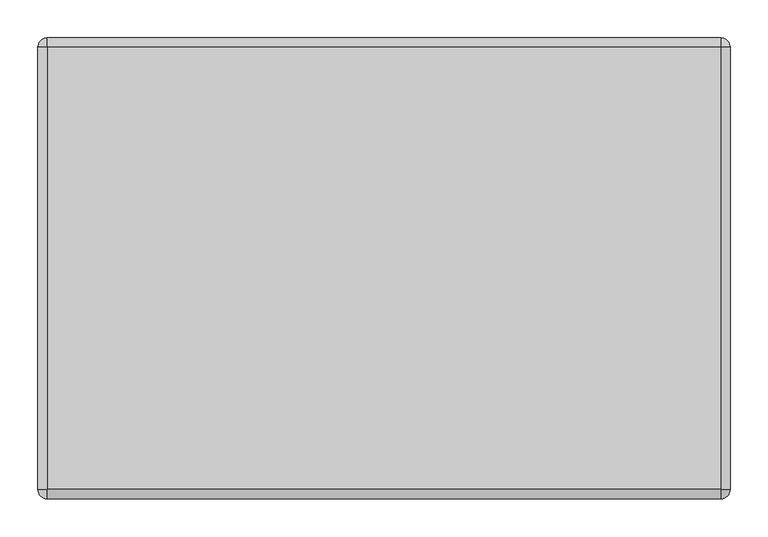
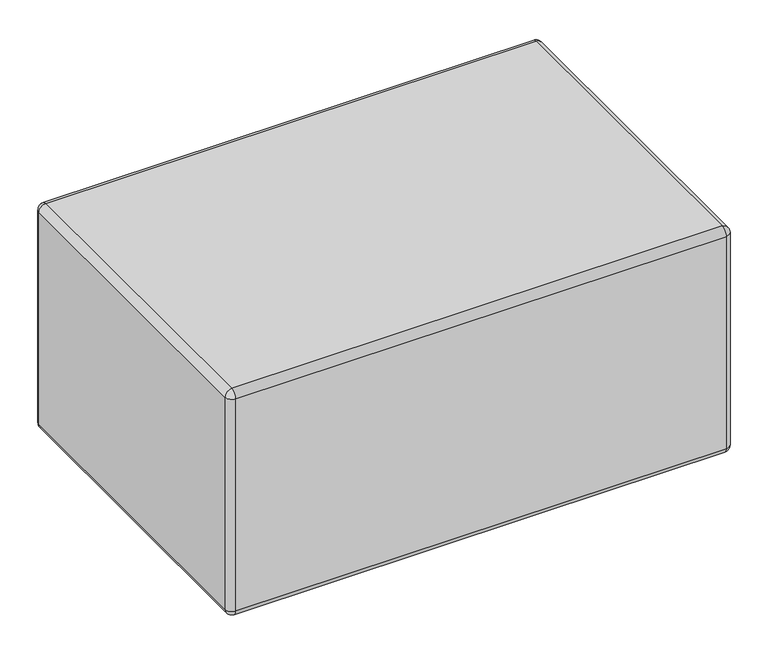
"""IFC4 building model written with IfcOpenShell, lengths in millimetres: furniture geometry, KFI Studios - Conversa : 24”x36” Seat."""

from ifc_helpers import new_model, si_unit, point, frame, origin, place, context, project, spatial, polyline, circle_curve, ellipse_curve, trimmed, source, transform, mapped, element, save
from ifc_brep_helpers import plane_surface, cylinder_surface, revolved_surface, advanced_brep


def furniture_5084037b(model_context):
    return source(origin(), model_context, "Body", "AdvancedBrep", [
        advanced_brep(
        [(373.3895895, 212.725, 25.4), (365.125, 212.725, 25.4), (356.8604105, 212.725, 25.4), (373.3895895, 212.725, 14.2843611), (356.8604105, 212.725, 14.2843611), (371.7876354, 212.725, 14.2843611), (358.4623646, 212.725, 14.2843611), (371.7876354, 212.725, 12.7064551), (358.4623646, 212.725, 12.7064551), (373.3890671, 212.725, 12.7064551), (356.8609329, 212.725, 12.7064551), (382.5741215, 212.725, 3.1950529), (347.6758785, 212.725, 3.1950529), (382.5741215, 212.725, 0.0), (347.6758785, 212.725, 0.0), (365.125, 212.725, 0.0)],
        [
            (0, 1),
            (1, 2),
            (2, 0, circle_curve(frame((365.125, 212.725, 25.4), z_axis=(0.0, 0.0, 1.0), x_axis=(-1.0, 0.0, 0.0)), 8.2645895)),
            (0, 2, circle_curve(frame((365.125, 212.725, 25.4), z_axis=(0.0, 0.0, 1.0), x_axis=(-1.0, 0.0, 0.0)), 8.2645895)),
            (3, 0),
            (2, 4),
            (4, 3, circle_curve(frame((365.125, 212.725, 14.2843611), z_axis=(0.0, 0.0, 1.0), x_axis=(-1.0, 0.0, 0.0)), 8.2645895)),
            (3, 4, circle_curve(frame((365.125, 212.725, 14.2843611), z_axis=(0.0, 0.0, 1.0), x_axis=(-1.0, 0.0, 0.0)), 8.2645895)),
            (5, 3),
            (4, 6),
            (6, 5, circle_curve(frame((365.125, 212.725, 14.2843611), z_axis=(0.0, 0.0, 1.0), x_axis=(-1.0, 0.0, 0.0)), 6.6626354)),
            (5, 6, circle_curve(frame((365.125, 212.725, 14.2843611), z_axis=(0.0, 0.0, 1.0), x_axis=(-1.0, 0.0, 0.0)), 6.6626354)),
            (7, 5),
            (6, 8),
            (8, 7, circle_curve(frame((365.125, 212.725, 12.7064551), z_axis=(0.0, 0.0, 1.0), x_axis=(-1.0, 0.0, 0.0)), 6.6626354)),
            (7, 8, circle_curve(frame((365.125, 212.725, 12.7064551), z_axis=(0.0, 0.0, 1.0), x_axis=(-1.0, 0.0, 0.0)), 6.6626354)),
            (9, 7),
            (8, 10),
            (10, 9, circle_curve(frame((365.125, 212.725, 12.7064551), z_axis=(0.0, 0.0, 1.0), x_axis=(-1.0, 0.0, 0.0)), 8.2640671)),
            (9, 10, circle_curve(frame((365.125, 212.725, 12.7064551), z_axis=(0.0, 0.0, 1.0), x_axis=(-1.0, 0.0, 0.0)), 8.2640671)),
            (11, 9),
            (10, 12),
            (12, 11, circle_curve(frame((365.125, 212.725, 3.1950529), z_axis=(0.0, 0.0, 1.0), x_axis=(-1.0, 0.0, 0.0)), 17.4491215)),
            (11, 12, circle_curve(frame((365.125, 212.725, 3.1950529), z_axis=(0.0, 0.0, 1.0), x_axis=(-1.0, 0.0, 0.0)), 17.4491215)),
            (13, 11),
            (12, 14),
            (14, 13, circle_curve(frame((365.125, 212.725, 0.0), z_axis=(0.0, 0.0, 1.0), x_axis=(-1.0, 0.0, 0.0)), 17.4491215)),
            (13, 14, circle_curve(frame((365.125, 212.725, 0.0), z_axis=(0.0, 0.0, 1.0), x_axis=(-1.0, 0.0, 0.0)), 17.4491215)),
            (15, 13),
            (14, 15),
        ],
        [
            plane_surface(frame((365.125, 212.725, 25.4), z_axis=(0.0, 0.0, 1.0), x_axis=(-1.0, 0.0, 0.0))),
            cylinder_surface(frame((365.125, 212.725, 33.820929), z_axis=(0.0, 0.0, -1.0), x_axis=(-1.0, 0.0, 0.0)), 8.2645895),
            plane_surface(frame((365.125, 212.725, 14.2843611), z_axis=(0.0, 0.0, -1.0), x_axis=(-1.0, 0.0, 0.0))),
            cylinder_surface(frame((365.125, 212.725, 33.820929), z_axis=(0.0, 0.0, -1.0), x_axis=(-1.0, 0.0, 0.0)), 6.6626354),
            plane_surface(frame((365.125, 212.725, 12.7064551), z_axis=(0.0, 0.0, 1.0), x_axis=(-1.0, 0.0, 0.0))),
            revolved_surface(polyline([(356.8609329, 212.725, 12.7064551), (347.6758785, 212.725, 3.1950529)]), (365.125, 212.725, 33.820929), (0.0, 0.0, -1.0)),
            cylinder_surface(frame((365.125, 212.725, 33.820929), z_axis=(0.0, 0.0, -1.0), x_axis=(-1.0, 0.0, 0.0)), 17.4491215),
            plane_surface(frame((365.125, 212.725, 0.0), z_axis=(0.0, 0.0, -1.0), x_axis=(-1.0, 0.0, 0.0))),
        ],
        [
            (0, [[1, 2, 3]]),
            (0, [[-2, -1, 4]]),
            (1, [[5, -3, 6, 7]]),
            (1, [[-6, -4, -5, 8]]),
            (2, [[9, -7, 10, 11]]),
            (2, [[-10, -8, -9, 12]]),
            (3, [[13, -11, 14, 15]]),
            (3, [[-14, -12, -13, 16]]),
            (4, [[17, -15, 18, 19]]),
            (4, [[-18, -16, -17, 20]]),
            (5, [[21, -19, 22, 23]]),
            (5, [[-22, -20, -21, 24]]),
            (6, [[25, -23, 26, 27]]),
            (6, [[-26, -24, -25, 28]]),
            (7, [[29, -27, 30]]),
            (7, [[-30, -28, -29]]),
        ],
    ),
        advanced_brep(
        [(-356.8604105, 212.725, 25.4), (-365.125, 212.725, 25.4), (-373.3895895, 212.725, 25.4), (-356.8604105, 212.725, 14.2843611), (-373.3895895, 212.725, 14.2843611), (-358.4623646, 212.725, 14.2843611), (-371.7876354, 212.725, 14.2843611), (-358.4623646, 212.725, 12.7064551), (-371.7876354, 212.725, 12.7064551), (-356.8609329, 212.725, 12.7064551), (-373.3890671, 212.725, 12.7064551), (-347.6758785, 212.725, 3.1950529), (-382.5741215, 212.725, 3.1950529), (-347.6758785, 212.725, 0.0), (-382.5741215, 212.725, 0.0), (-365.125, 212.725, 0.0)],
        [
            (0, 1),
            (1, 2),
            (2, 0, circle_curve(frame((-365.125, 212.725, 25.4), z_axis=(0.0, 0.0, 1.0), x_axis=(-1.0, 0.0, 0.0)), 8.2645895)),
            (0, 2, circle_curve(frame((-365.125, 212.725, 25.4), z_axis=(0.0, 0.0, 1.0), x_axis=(-1.0, 0.0, 0.0)), 8.2645895)),
            (3, 0),
            (2, 4),
            (4, 3, circle_curve(frame((-365.125, 212.725, 14.2843611), z_axis=(0.0, 0.0, 1.0), x_axis=(-1.0, 0.0, 0.0)), 8.2645895)),
            (3, 4, circle_curve(frame((-365.125, 212.725, 14.2843611), z_axis=(0.0, 0.0, 1.0), x_axis=(-1.0, 0.0, 0.0)), 8.2645895)),
            (5, 3),
            (4, 6),
            (6, 5, circle_curve(frame((-365.125, 212.725, 14.2843611), z_axis=(0.0, 0.0, 1.0), x_axis=(-1.0, 0.0, 0.0)), 6.6626354)),
            (5, 6, circle_curve(frame((-365.125, 212.725, 14.2843611), z_axis=(0.0, 0.0, 1.0), x_axis=(-1.0, 0.0, 0.0)), 6.6626354)),
            (7, 5),
            (6, 8),
            (8, 7, circle_curve(frame((-365.125, 212.725, 12.7064551), z_axis=(0.0, 0.0, 1.0), x_axis=(-1.0, 0.0, 0.0)), 6.6626354)),
            (7, 8, circle_curve(frame((-365.125, 212.725, 12.7064551), z_axis=(0.0, 0.0, 1.0), x_axis=(-1.0, 0.0, 0.0)), 6.6626354)),
            (9, 7),
            (8, 10),
            (10, 9, circle_curve(frame((-365.125, 212.725, 12.7064551), z_axis=(0.0, 0.0, 1.0), x_axis=(-1.0, 0.0, 0.0)), 8.2640671)),
            (9, 10, circle_curve(frame((-365.125, 212.725, 12.7064551), z_axis=(0.0, 0.0, 1.0), x_axis=(-1.0, 0.0, 0.0)), 8.2640671)),
            (11, 9),
            (10, 12),
            (12, 11, circle_curve(frame((-365.125, 212.725, 3.1950529), z_axis=(0.0, 0.0, 1.0), x_axis=(-1.0, 0.0, 0.0)), 17.4491215)),
            (11, 12, circle_curve(frame((-365.125, 212.725, 3.1950529), z_axis=(0.0, 0.0, 1.0), x_axis=(-1.0, 0.0, 0.0)), 17.4491215)),
            (13, 11),
            (12, 14),
            (14, 13, circle_curve(frame((-365.125, 212.725, 0.0), z_axis=(0.0, 0.0, 1.0), x_axis=(-1.0, 0.0, 0.0)), 17.4491215)),
            (13, 14, circle_curve(frame((-365.125, 212.725, 0.0), z_axis=(0.0, 0.0, 1.0), x_axis=(-1.0, 0.0, 0.0)), 17.4491215)),
            (15, 13),
            (14, 15),
        ],
        [
            plane_surface(frame((-365.125, 212.725, 25.4), z_axis=(0.0, 0.0, 1.0), x_axis=(-1.0, 0.0, 0.0))),
            cylinder_surface(frame((-365.125, 212.725, 33.820929), z_axis=(0.0, 0.0, -1.0), x_axis=(-1.0, 0.0, 0.0)), 8.2645895),
            plane_surface(frame((-365.125, 212.725, 14.2843611), z_axis=(0.0, 0.0, -1.0), x_axis=(-1.0, 0.0, 0.0))),
            cylinder_surface(frame((-365.125, 212.725, 33.820929), z_axis=(0.0, 0.0, -1.0), x_axis=(-1.0, 0.0, 0.0)), 6.6626354),
            plane_surface(frame((-365.125, 212.725, 12.7064551), z_axis=(0.0, 0.0, 1.0), x_axis=(-1.0, 0.0, 0.0))),
            revolved_surface(polyline([(-373.3890671, 212.725, 12.7064551), (-382.5741215, 212.725, 3.1950529)]), (-365.125, 212.725, 33.820929), (0.0, 0.0, -1.0)),
            cylinder_surface(frame((-365.125, 212.725, 33.820929), z_axis=(0.0, 0.0, -1.0), x_axis=(-1.0, 0.0, 0.0)), 17.4491215),
            plane_surface(frame((-365.125, 212.725, 0.0), z_axis=(0.0, 0.0, -1.0), x_axis=(-1.0, 0.0, 0.0))),
        ],
        [
            (0, [[1, 2, 3]]),
            (0, [[-2, -1, 4]]),
            (1, [[5, -3, 6, 7]]),
            (1, [[-6, -4, -5, 8]]),
            (2, [[9, -7, 10, 11]]),
            (2, [[-10, -8, -9, 12]]),
            (3, [[13, -11, 14, 15]]),
            (3, [[-14, -12, -13, 16]]),
            (4, [[17, -15, 18, 19]]),
            (4, [[-18, -16, -17, 20]]),
            (5, [[21, -19, 22, 23]]),
            (5, [[-22, -20, -21, 24]]),
            (6, [[25, -23, 26, 27]]),
            (6, [[-26, -24, -25, 28]]),
            (7, [[29, -27, 30]]),
            (7, [[-30, -28, -29]]),
        ],
    ),
        advanced_brep(
        [(373.3895895, -212.725, 25.4), (356.8604105, -212.725, 25.4), (365.125, -212.725, 25.4), (373.3895895, -212.725, 14.2843611), (356.8604105, -212.725, 14.2843611), (371.7876354, -212.725, 14.2843611), (358.4623646, -212.725, 14.2843611), (371.7876354, -212.725, 12.7064551), (358.4623646, -212.725, 12.7064551), (373.3890671, -212.725, 12.7064551), (356.8609329, -212.725, 12.7064551), (382.5741215, -212.725, 3.1950529), (347.6758785, -212.725, 3.1950529), (382.5741215, -212.725, 0.0), (347.6758785, -212.725, 0.0), (365.125, -212.725, 0.0)],
        [
            (0, 1, circle_curve(frame((365.125, -212.725, 25.4), z_axis=(0.0, 0.0, 1.0), x_axis=(-1.0, 0.0, 0.0)), 8.2645895)),
            (1, 2),
            (2, 0),
            (1, 0, circle_curve(frame((365.125, -212.725, 25.4), z_axis=(0.0, 0.0, 1.0), x_axis=(-1.0, 0.0, 0.0)), 8.2645895)),
            (3, 4, circle_curve(frame((365.125, -212.725, 14.2843611), z_axis=(0.0, 0.0, 1.0), x_axis=(-1.0, 0.0, 0.0)), 8.2645895)),
            (4, 1),
            (0, 3),
            (4, 3, circle_curve(frame((365.125, -212.725, 14.2843611), z_axis=(0.0, 0.0, 1.0), x_axis=(-1.0, 0.0, 0.0)), 8.2645895)),
            (5, 6, circle_curve(frame((365.125, -212.725, 14.2843611), z_axis=(0.0, 0.0, 1.0), x_axis=(-1.0, 0.0, 0.0)), 6.6626354)),
            (6, 4),
            (3, 5),
            (6, 5, circle_curve(frame((365.125, -212.725, 14.2843611), z_axis=(0.0, 0.0, 1.0), x_axis=(-1.0, 0.0, 0.0)), 6.6626354)),
            (7, 8, circle_curve(frame((365.125, -212.725, 12.7064551), z_axis=(0.0, 0.0, 1.0), x_axis=(-1.0, 0.0, 0.0)), 6.6626354)),
            (8, 6),
            (5, 7),
            (8, 7, circle_curve(frame((365.125, -212.725, 12.7064551), z_axis=(0.0, 0.0, 1.0), x_axis=(-1.0, 0.0, 0.0)), 6.6626354)),
            (9, 10, circle_curve(frame((365.125, -212.725, 12.7064551), z_axis=(0.0, 0.0, 1.0), x_axis=(-1.0, 0.0, 0.0)), 8.2640671)),
            (10, 8),
            (7, 9),
            (10, 9, circle_curve(frame((365.125, -212.725, 12.7064551), z_axis=(0.0, 0.0, 1.0), x_axis=(-1.0, 0.0, 0.0)), 8.2640671)),
            (11, 12, circle_curve(frame((365.125, -212.725, 3.1950529), z_axis=(0.0, 0.0, 1.0), x_axis=(-1.0, 0.0, 0.0)), 17.4491215)),
            (12, 10),
            (9, 11),
            (12, 11, circle_curve(frame((365.125, -212.725, 3.1950529), z_axis=(0.0, 0.0, 1.0), x_axis=(-1.0, 0.0, 0.0)), 17.4491215)),
            (13, 14, circle_curve(frame((365.125, -212.725, 0.0), z_axis=(0.0, 0.0, 1.0), x_axis=(-1.0, 0.0, 0.0)), 17.4491215)),
            (14, 12),
            (11, 13),
            (14, 13, circle_curve(frame((365.125, -212.725, 0.0), z_axis=(0.0, 0.0, 1.0), x_axis=(-1.0, 0.0, 0.0)), 17.4491215)),
            (15, 14),
            (13, 15),
        ],
        [
            plane_surface(frame((365.125, -212.725, 25.4), z_axis=(0.0, 0.0, 1.0), x_axis=(-1.0, 0.0, 0.0))),
            cylinder_surface(frame((365.125, -212.725, 33.820929), z_axis=(0.0, 0.0, -1.0), x_axis=(-1.0, 0.0, 0.0)), 8.2645895),
            plane_surface(frame((365.125, -212.725, 14.2843611), z_axis=(0.0, 0.0, -1.0), x_axis=(-1.0, 0.0, 0.0))),
            cylinder_surface(frame((365.125, -212.725, 33.820929), z_axis=(0.0, 0.0, -1.0), x_axis=(-1.0, 0.0, 0.0)), 6.6626354),
            plane_surface(frame((365.125, -212.725, 12.7064551), z_axis=(0.0, 0.0, 1.0), x_axis=(-1.0, 0.0, 0.0))),
            revolved_surface(polyline([(356.8609329, -212.725, 12.7064551), (347.6758785, -212.725, 3.1950529)]), (365.125, -212.725, 33.820929), (0.0, 0.0, -1.0)),
            cylinder_surface(frame((365.125, -212.725, 33.820929), z_axis=(0.0, 0.0, -1.0), x_axis=(-1.0, 0.0, 0.0)), 17.4491215),
            plane_surface(frame((365.125, -212.725, 0.0), z_axis=(0.0, 0.0, -1.0), x_axis=(-1.0, 0.0, 0.0))),
        ],
        [
            (0, [[1, 2, 3]]),
            (0, [[4, -3, -2]]),
            (1, [[5, 6, -1, 7]]),
            (1, [[8, -7, -4, -6]]),
            (2, [[9, 10, -5, 11]]),
            (2, [[12, -11, -8, -10]]),
            (3, [[13, 14, -9, 15]]),
            (3, [[16, -15, -12, -14]]),
            (4, [[17, 18, -13, 19]]),
            (4, [[20, -19, -16, -18]]),
            (5, [[21, 22, -17, 23]]),
            (5, [[24, -23, -20, -22]]),
            (6, [[25, 26, -21, 27]]),
            (6, [[28, -27, -24, -26]]),
            (7, [[29, -25, 30]]),
            (7, [[-30, -28, -29]]),
        ],
    ),
        advanced_brep(
        [(-356.8604105, -212.725, 25.4), (-373.3895895, -212.725, 25.4), (-365.125, -212.725, 25.4), (-356.8604105, -212.725, 14.2843611), (-373.3895895, -212.725, 14.2843611), (-358.4623646, -212.725, 14.2843611), (-371.7876354, -212.725, 14.2843611), (-358.4623646, -212.725, 12.7064551), (-371.7876354, -212.725, 12.7064551), (-356.8609329, -212.725, 12.7064551), (-373.3890671, -212.725, 12.7064551), (-347.6758785, -212.725, 3.1950529), (-382.5741215, -212.725, 3.1950529), (-347.6758785, -212.725, 0.0), (-382.5741215, -212.725, 0.0), (-365.125, -212.725, 0.0)],
        [
            (0, 1, circle_curve(frame((-365.125, -212.725, 25.4), z_axis=(0.0, 0.0, 1.0), x_axis=(-1.0, 0.0, 0.0)), 8.2645895)),
            (1, 2),
            (2, 0),
            (1, 0, circle_curve(frame((-365.125, -212.725, 25.4), z_axis=(0.0, 0.0, 1.0), x_axis=(-1.0, 0.0, 0.0)), 8.2645895)),
            (3, 4, circle_curve(frame((-365.125, -212.725, 14.2843611), z_axis=(0.0, 0.0, 1.0), x_axis=(-1.0, 0.0, 0.0)), 8.2645895)),
            (4, 1),
            (0, 3),
            (4, 3, circle_curve(frame((-365.125, -212.725, 14.2843611), z_axis=(0.0, 0.0, 1.0), x_axis=(-1.0, 0.0, 0.0)), 8.2645895)),
            (5, 6, circle_curve(frame((-365.125, -212.725, 14.2843611), z_axis=(0.0, 0.0, 1.0), x_axis=(-1.0, 0.0, 0.0)), 6.6626354)),
            (6, 4),
            (3, 5),
            (6, 5, circle_curve(frame((-365.125, -212.725, 14.2843611), z_axis=(0.0, 0.0, 1.0), x_axis=(-1.0, 0.0, 0.0)), 6.6626354)),
            (7, 8, circle_curve(frame((-365.125, -212.725, 12.7064551), z_axis=(0.0, 0.0, 1.0), x_axis=(-1.0, 0.0, 0.0)), 6.6626354)),
            (8, 6),
            (5, 7),
            (8, 7, circle_curve(frame((-365.125, -212.725, 12.7064551), z_axis=(0.0, 0.0, 1.0), x_axis=(-1.0, 0.0, 0.0)), 6.6626354)),
            (9, 10, circle_curve(frame((-365.125, -212.725, 12.7064551), z_axis=(0.0, 0.0, 1.0), x_axis=(-1.0, 0.0, 0.0)), 8.2640671)),
            (10, 8),
            (7, 9),
            (10, 9, circle_curve(frame((-365.125, -212.725, 12.7064551), z_axis=(0.0, 0.0, 1.0), x_axis=(-1.0, 0.0, 0.0)), 8.2640671)),
            (11, 12, circle_curve(frame((-365.125, -212.725, 3.1950529), z_axis=(0.0, 0.0, 1.0), x_axis=(-1.0, 0.0, 0.0)), 17.4491215)),
            (12, 10),
            (9, 11),
            (12, 11, circle_curve(frame((-365.125, -212.725, 3.1950529), z_axis=(0.0, 0.0, 1.0), x_axis=(-1.0, 0.0, 0.0)), 17.4491215)),
            (13, 14, circle_curve(frame((-365.125, -212.725, 0.0), z_axis=(0.0, 0.0, 1.0), x_axis=(-1.0, 0.0, 0.0)), 17.4491215)),
            (14, 12),
            (11, 13),
            (14, 13, circle_curve(frame((-365.125, -212.725, 0.0), z_axis=(0.0, 0.0, 1.0), x_axis=(-1.0, 0.0, 0.0)), 17.4491215)),
            (15, 14),
            (13, 15),
        ],
        [
            plane_surface(frame((-365.125, -212.725, 25.4), z_axis=(0.0, 0.0, 1.0), x_axis=(-1.0, 0.0, 0.0))),
            cylinder_surface(frame((-365.125, -212.725, 33.820929), z_axis=(0.0, 0.0, -1.0), x_axis=(-1.0, 0.0, 0.0)), 8.2645895),
            plane_surface(frame((-365.125, -212.725, 14.2843611), z_axis=(0.0, 0.0, -1.0), x_axis=(-1.0, 0.0, 0.0))),
            cylinder_surface(frame((-365.125, -212.725, 33.820929), z_axis=(0.0, 0.0, -1.0), x_axis=(-1.0, 0.0, 0.0)), 6.6626354),
            plane_surface(frame((-365.125, -212.725, 12.7064551), z_axis=(0.0, 0.0, 1.0), x_axis=(-1.0, 0.0, 0.0))),
            revolved_surface(polyline([(-373.3890671, -212.725, 12.7064551), (-382.5741215, -212.725, 3.1950529)]), (-365.125, -212.725, 33.820929), (0.0, 0.0, -1.0)),
            cylinder_surface(frame((-365.125, -212.725, 33.820929), z_axis=(0.0, 0.0, -1.0), x_axis=(-1.0, 0.0, 0.0)), 17.4491215),
            plane_surface(frame((-365.125, -212.725, 0.0), z_axis=(0.0, 0.0, -1.0), x_axis=(-1.0, 0.0, 0.0))),
        ],
        [
            (0, [[1, 2, 3]]),
            (0, [[4, -3, -2]]),
            (1, [[5, 6, -1, 7]]),
            (1, [[8, -7, -4, -6]]),
            (2, [[9, 10, -5, 11]]),
            (2, [[12, -11, -8, -10]]),
            (3, [[13, 14, -9, 15]]),
            (3, [[16, -15, -12, -14]]),
            (4, [[17, 18, -13, 19]]),
            (4, [[20, -19, -16, -18]]),
            (5, [[21, 22, -17, 23]]),
            (5, [[24, -23, -20, -22]]),
            (6, [[25, 26, -21, 27]]),
            (6, [[28, -27, -24, -26]]),
            (7, [[29, -25, 30]]),
            (7, [[-30, -28, -29]]),
        ],
    ),
        advanced_brep(
        [(-457.2, 292.1, 444.5), (-457.2, -292.1, 444.5), (-444.5, -292.1, 457.2), (-444.5, 292.1, 457.2), (-457.2, 292.1, 38.1), (-457.2, -292.1, 38.1), (-444.5, 292.1, 25.4), (-444.5, -292.1, 25.4), (-444.5, -304.8, 444.5), (444.5, -304.8, 444.5), (444.5, -292.1, 457.2), (-444.5, -304.8, 38.1), (444.5, -304.8, 38.1), (444.5, -292.1, 25.4), (444.5, 292.1, 457.2), (444.5, 292.1, 25.4), (444.5, 304.8, 444.5), (-444.5, 304.8, 444.5), (444.5, 304.8, 38.1), (-444.5, 304.8, 38.1), (457.2, -292.1, 444.5), (457.2, 292.1, 444.5), (457.2, -292.1, 38.1), (457.2, 292.1, 38.1)],
        [
            (0, 1),
            (1, 2, circle_curve(frame((-444.5, -292.1, 444.5), z_axis=(0.0, 1.0, 0.0), x_axis=(-1.0, 0.0, 0.0)), 12.7)),
            (2, 3),
            (3, 0, circle_curve(frame((-444.5, 292.1, 444.5), z_axis=(0.0, -1.0, 0.0), x_axis=(-1.0, 0.0, 0.0)), 12.7)),
            (0, 4),
            (4, 5),
            (5, 1),
            (4, 6, circle_curve(frame((-444.5, 292.1, 38.1), z_axis=(0.0, -1.0, 0.0), x_axis=(-1.0, 0.0, 0.0)), 12.7)),
            (6, 7),
            (7, 5, circle_curve(frame((-444.5, -292.1, 38.1), z_axis=(0.0, 1.0, 0.0), x_axis=(-1.0, 0.0, 0.0)), 12.7)),
            (8, 9),
            (9, 10, circle_curve(frame((444.5, -292.1, 444.5), z_axis=(-1.0, 0.0, 0.0), x_axis=(0.0, 1.0, 0.0)), 12.7)),
            (10, 2),
            (2, 8, circle_curve(frame((-444.5, -292.1, 444.5), z_axis=(1.0, 0.0, 0.0), x_axis=(0.0, 1.0, 0.0)), 12.7)),
            (8, 11),
            (11, 12),
            (12, 9),
            (11, 7, circle_curve(frame((-444.5, -292.1, 38.1), z_axis=(1.0, 0.0, 0.0), x_axis=(0.0, 1.0, 0.0)), 12.7)),
            (7, 13),
            (13, 12, circle_curve(frame((444.5, -292.1, 38.1), z_axis=(-1.0, 0.0, 0.0), x_axis=(0.0, 1.0, 0.0)), 12.7)),
            (10, 14),
            (14, 3),
            (6, 15),
            (15, 13),
            (16, 17),
            (17, 3, circle_curve(frame((-444.5, 292.1, 444.5), z_axis=(1.0, 0.0, 0.0), x_axis=(0.0, 1.0, 0.0)), 12.7)),
            (14, 16, circle_curve(frame((444.5, 292.1, 444.5), z_axis=(-1.0, 0.0, 0.0), x_axis=(0.0, 1.0, 0.0)), 12.7)),
            (16, 18),
            (18, 19),
            (19, 17),
            (18, 15, circle_curve(frame((444.5, 292.1, 38.1), z_axis=(-1.0, 0.0, 0.0), x_axis=(0.0, 1.0, 0.0)), 12.7)),
            (6, 19, circle_curve(frame((-444.5, 292.1, 38.1), z_axis=(1.0, 0.0, 0.0), x_axis=(0.0, 1.0, 0.0)), 12.7)),
            (20, 21),
            (21, 14, circle_curve(frame((444.5, 292.1, 444.5), z_axis=(0.0, -1.0, 0.0), x_axis=(-1.0, 0.0, 0.0)), 12.7)),
            (10, 20, circle_curve(frame((444.5, -292.1, 444.5), z_axis=(0.0, 1.0, 0.0), x_axis=(-1.0, 0.0, 0.0)), 12.7)),
            (20, 22),
            (22, 23),
            (23, 21),
            (22, 13, circle_curve(frame((444.5, -292.1, 38.1), z_axis=(0.0, 1.0, 0.0), x_axis=(-1.0, 0.0, 0.0)), 12.7)),
            (15, 23, circle_curve(frame((444.5, 292.1, 38.1), z_axis=(0.0, -1.0, 0.0), x_axis=(-1.0, 0.0, 0.0)), 12.7)),
            (19, 4, circle_curve(frame((-444.5, 292.1, 38.1), z_axis=(0.0, 0.0, 1.0), x_axis=(-1.0, 0.0, 0.0)), 12.7)),
            (0, 17, circle_curve(frame((-444.5, 292.1, 444.5), z_axis=(0.0, 0.0, -1.0), x_axis=(-1.0, 0.0, 0.0)), 12.7)),
            (8, 1, circle_curve(frame((-444.5, -292.1, 444.5), z_axis=(0.0, 0.0, -1.0), x_axis=(-1.0, 0.0, 0.0)), 12.7)),
            (5, 11, circle_curve(frame((-444.5, -292.1, 38.1), z_axis=(0.0, 0.0, 1.0), x_axis=(-1.0, 0.0, 0.0)), 12.7)),
            (12, 22, circle_curve(frame((444.5, -292.1, 38.1), z_axis=(0.0, 0.0, 1.0), x_axis=(1.0, 0.0, 0.0)), 12.7)),
            (20, 9, circle_curve(frame((444.5, -292.1, 444.5), z_axis=(0.0, 0.0, -1.0), x_axis=(1.0, 0.0, 0.0)), 12.7)),
            (16, 21, circle_curve(frame((444.5, 292.1, 444.5), z_axis=(0.0, 0.0, -1.0), x_axis=(1.0, 0.0, 0.0)), 12.7)),
            (23, 18, circle_curve(frame((444.5, 292.1, 38.1), z_axis=(0.0, 0.0, 1.0), x_axis=(1.0, 0.0, 0.0)), 12.7)),
        ],
        [
            cylinder_surface(frame((-444.5, -292.1, 444.5), z_axis=(0.0, -1.0, 0.0), x_axis=(-1.0, 0.0, 0.0)), 12.7),
            plane_surface(frame((-457.2, -292.1, 444.5), z_axis=(-1.0, 0.0, 0.0), x_axis=(0.0, 1.0, 0.0))),
            cylinder_surface(frame((-444.5, -292.1, 38.1), z_axis=(0.0, -1.0, 0.0), x_axis=(-1.0, 0.0, 0.0)), 12.7),
            cylinder_surface(frame((-444.5, -292.1, 444.5), z_axis=(-1.0, 0.0, 0.0), x_axis=(0.0, 1.0, 0.0)), 12.7),
            plane_surface(frame((-444.5, -304.8, 38.1), z_axis=(0.0, -1.0, 0.0), x_axis=(1.0, 0.0, 0.0))),
            cylinder_surface(frame((-444.5, -292.1, 38.1), z_axis=(-1.0, 0.0, 0.0), x_axis=(0.0, 1.0, 0.0)), 12.7),
            plane_surface(frame((-444.5, 292.1, 457.2), z_axis=(0.0, 0.0, 1.0), x_axis=(-1.0, 0.0, 0.0))),
            plane_surface(frame((-444.5, 292.1, 25.4), z_axis=(0.0, 0.0, -1.0), x_axis=(1.0, 0.0, 0.0))),
            cylinder_surface(frame((-444.5, 292.1, 444.5), z_axis=(-1.0, 0.0, 0.0), x_axis=(0.0, 1.0, 0.0)), 12.7),
            plane_surface(frame((-444.5, 304.8, 444.5), z_axis=(0.0, 1.0, 0.0), x_axis=(1.0, 0.0, 0.0))),
            cylinder_surface(frame((-444.5, 292.1, 38.1), z_axis=(-1.0, 0.0, 0.0), x_axis=(0.0, 1.0, 0.0)), 12.7),
            cylinder_surface(frame((444.5, -292.1, 444.5), z_axis=(0.0, -1.0, 0.0), x_axis=(-1.0, 0.0, 0.0)), 12.7),
            plane_surface(frame((457.2, -292.1, 38.1), z_axis=(1.0, 0.0, 0.0), x_axis=(0.0, 1.0, 0.0))),
            cylinder_surface(frame((444.5, -292.1, 38.1), z_axis=(0.0, -1.0, 0.0), x_axis=(-1.0, 0.0, 0.0)), 12.7),
            cylinder_surface(frame((-444.5, 292.1, 457.2), z_axis=(0.0, 0.0, 1.0), x_axis=(-1.0, 0.0, 0.0)), 12.7),
            revolved_surface(trimmed(ellipse_curve(frame((-444.5, 292.1, 38.1), z_axis=(0.0, 1.0, 0.0), x_axis=(0.0, 0.0, 1.0)), 12.7, 12.7), [point((-444.5, 292.1, 25.4))], [point((-457.2, 292.1, 38.1))], True, "CARTESIAN"), (-444.5, 292.1, 457.2), (0.0, 0.0, 1.0)),
            revolved_surface(trimmed(ellipse_curve(frame((-444.5, 292.1, 444.5), z_axis=(0.0, 1.0, 0.0), x_axis=(0.0, 0.0, 1.0)), 12.7, 12.7), [point((-457.2, 292.1, 444.5))], [point((-444.5, 292.1, 457.2))], True, "CARTESIAN"), (-444.5, 292.1, 457.2), (0.0, 0.0, 1.0)),
            cylinder_surface(frame((-444.5, -292.1, 306.9189642), z_axis=(0.0, 0.0, -1.0), x_axis=(-1.0, 0.0, 0.0)), 12.7),
            revolved_surface(trimmed(ellipse_curve(frame((-444.5, -292.1, 444.5), z_axis=(0.0, -1.0, 0.0), x_axis=(1.0, 0.0, 0.0)), 12.7, 12.7), [point((-444.5, -292.1, 457.2))], [point((-457.2, -292.1, 444.5))], True, "CARTESIAN"), (-444.5, -292.1, 306.9189642), (0.0, 0.0, -1.0)),
            revolved_surface(trimmed(ellipse_curve(frame((-444.5, -292.1, 38.1), z_axis=(0.0, -1.0, 0.0), x_axis=(1.0, 0.0, 0.0)), 12.7, 12.7), [point((-457.2, -292.1, 38.1))], [point((-444.5, -292.1, 25.4))], True, "CARTESIAN"), (-444.5, -292.1, 306.9189642), (0.0, 0.0, -1.0)),
            cylinder_surface(frame((444.5, -292.1, 457.2), z_axis=(0.0, 0.0, 1.0), x_axis=(1.0, 0.0, 0.0)), 12.7),
            revolved_surface(trimmed(ellipse_curve(frame((444.5, -292.1, 38.1), z_axis=(0.0, -1.0, 0.0), x_axis=(1.0, 0.0, 0.0)), 12.7, 12.7), [point((444.5, -292.1, 25.4))], [point((457.2, -292.1, 38.1))], True, "CARTESIAN"), (444.5, -292.1, 457.2), (0.0, 0.0, 1.0)),
            revolved_surface(trimmed(ellipse_curve(frame((444.5, -292.1, 444.5), z_axis=(0.0, -1.0, 0.0), x_axis=(1.0, 0.0, 0.0)), 12.7, 12.7), [point((457.2, -292.1, 444.5))], [point((444.5, -292.1, 457.2))], True, "CARTESIAN"), (444.5, -292.1, 457.2), (0.0, 0.0, 1.0)),
            cylinder_surface(frame((444.5, 292.1, 306.9189642), z_axis=(0.0, 0.0, -1.0), x_axis=(1.0, 0.0, 0.0)), 12.7),
            revolved_surface(trimmed(ellipse_curve(frame((444.5, 292.1, 444.5), z_axis=(0.0, 1.0, 0.0), x_axis=(0.0, 0.0, 1.0)), 12.7, 12.7), [point((444.5, 292.1, 457.2))], [point((457.2, 292.1, 444.5))], True, "CARTESIAN"), (444.5, 292.1, 306.9189642), (0.0, 0.0, -1.0)),
            revolved_surface(trimmed(ellipse_curve(frame((444.5, 292.1, 38.1), z_axis=(0.0, 1.0, 0.0), x_axis=(0.0, 0.0, 1.0)), 12.7, 12.7), [point((457.2, 292.1, 38.1))], [point((444.5, 292.1, 25.4))], True, "CARTESIAN"), (444.5, 292.1, 306.9189642), (0.0, 0.0, -1.0)),
        ],
        [
            (0, [[1, 2, 3, 4]]),
            (1, [[-1, 5, 6, 7]]),
            (2, [[-6, 8, 9, 10]]),
            (3, [[11, 12, 13, 14]]),
            (4, [[-11, 15, 16, 17]]),
            (5, [[-16, 18, 19, 20]]),
            (6, [[-3, -13, 21, 22]]),
            (7, [[-9, 23, 24, -19]]),
            (8, [[25, 26, -22, 27]]),
            (9, [[-25, 28, 29, 30]]),
            (10, [[-29, 31, -23, 32]]),
            (11, [[33, 34, -21, 35]]),
            (12, [[-33, 36, 37, 38]]),
            (13, [[-37, 39, -24, 40]]),
            (14, [[41, -5, 42, -30]]),
            (15, [[-41, -32, -8]]),
            (16, [[-42, -4, -26]]),
            (17, [[43, -7, 44, -15]]),
            (18, [[-43, -14, -2]]),
            (19, [[-44, -10, -18]]),
            (20, [[45, -36, 46, -17]]),
            (21, [[-45, -20, -39]]),
            (22, [[-46, -35, -12]]),
            (23, [[47, -38, 48, -28]]),
            (24, [[-47, -27, -34]]),
            (25, [[-48, -40, -31]]),
        ],
    ),
    ])


if __name__ == "__main__":
    model = new_model("IFC4")
    model_context = context("Model", 3, world=origin())
    ifc_project = project(units=[si_unit("LENGTHUNIT", "METRE", prefix="MILLI")], contexts=[model_context])
    site = spatial("IfcSite", under=ifc_project)
    building = spatial("IfcBuilding", under=site)
    placement = place(None, origin())
    furniture_shape = furniture_5084037b(model_context)
    element("IfcFurniture", 1, ObjectType="KFI Studios - Conversa : 24”x36” Seat", at=placement, inside=building, context=model_context, shape_type="MappedRepresentation", body=[
        mapped(furniture_shape, transform((0.0, 0.0, 0.0), x_axis=(1.0, 0.0, 0.0), y_axis=(0.0, 1.0, 0.0), z_axis=(0.0, 0.0, 1.0))),
    ])
    save(model, "model.ifc")
